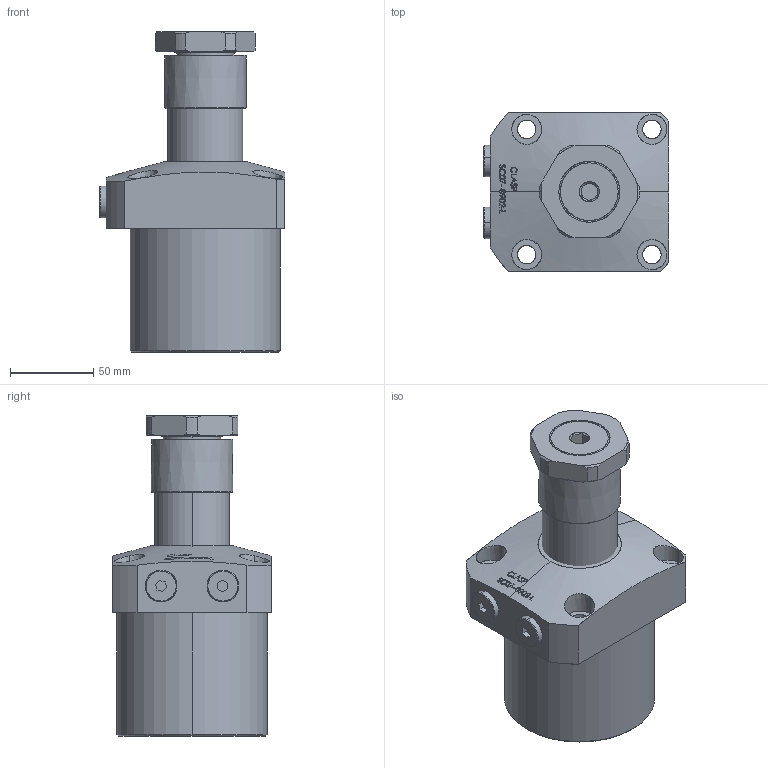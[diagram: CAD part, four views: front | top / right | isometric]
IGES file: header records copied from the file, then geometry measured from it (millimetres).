
Start section: SolidWorks IGES file using analytic representation for surfaces
Global section: file name: D:\karuppas\Clasp\3D model\SWING CYLINDER\Top Mounting swing cylinder\SC07-0902-L\SC07-0902-L.IGS; native system: SolidWorks 2017; preprocessor: SolidWorks 2017; author: pc; date: 220705.232539; units: millimetre
Bounding box: 111 x 95 x 192 mm (x, y, z)
Surface area: 95047 mm2 (no closed solid volume)
Topology: 0 solids, 0 shells, 363 faces, 6689 edges, 6688 vertices
Faces by surface type: bspline 250, revolution 113
